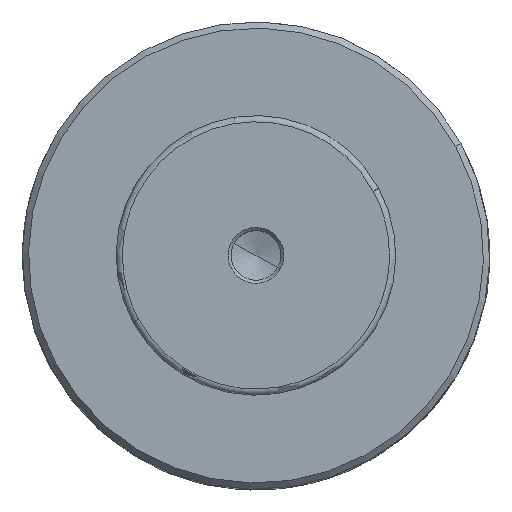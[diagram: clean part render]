
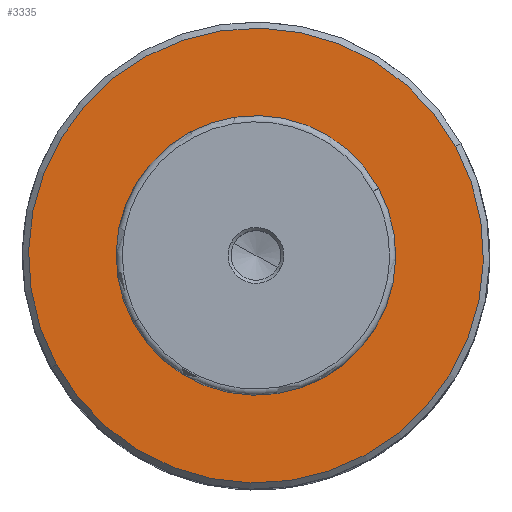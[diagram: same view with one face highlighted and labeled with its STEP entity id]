
A CAD part, top view. The second image highlights one B-rep face of the part: STEP entity #3335.
In plain terms, the highlighted planar face has unit normal (0, 0, 1).
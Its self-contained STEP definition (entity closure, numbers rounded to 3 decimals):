
#3049=CARTESIAN_POINT('Vertex',(32.12,17.547,74.)) ;
#3052=CARTESIAN_POINT('Axis2P3D Location',(0.,0.,74.)) ;
#3056=CARTESIAN_POINT('Vertex',(-32.12,-17.547,74.)) ;
#3314=CARTESIAN_POINT('Axis2P3D Location',(0.,0.,74.)) ;
#3326=CARTESIAN_POINT('Axis2P3D Location',(36.6,0.,74.)) ;
#3053=DIRECTION('Axis2P3D Direction',(0.,0.,-1.)) ;
#3315=DIRECTION('Axis2P3D Direction',(0.,0.,-1.)) ;
#3327=DIRECTION('Axis2P3D Direction',(0.,0.,1.)) ;
#3328=DIRECTION('Axis2P3D XDirection',(1.,0.,0.)) ;
#3054=AXIS2_PLACEMENT_3D('Circle Axis2P3D',#3052,#3053,$) ;
#3316=AXIS2_PLACEMENT_3D('Circle Axis2P3D',#3314,#3315,$) ;
#3329=AXIS2_PLACEMENT_3D('Plane Axis2P3D',#3326,#3327,#3328) ;
#3332=ORIENTED_EDGE('',*,*,#3058,.T.) ;
#3333=ORIENTED_EDGE('',*,*,#3318,.T.) ;
#3335=ADVANCED_FACE('',(#3334),#3330,.T.) ;
#3055=CIRCLE('generated circle',#3054,36.6) ;
#3317=CIRCLE('generated circle',#3316,36.6) ;
#3058=EDGE_CURVE('',#3057,#3050,#3055,.F.) ;
#3318=EDGE_CURVE('',#3050,#3057,#3317,.F.) ;
#3331=EDGE_LOOP('',(#3332,#3333)) ;
#3334=FACE_OUTER_BOUND('',#3331,.T.) ;
#3330=PLANE('Plane',#3329) ;
#3050=VERTEX_POINT('',#3049) ;
#3057=VERTEX_POINT('',#3056) ;
